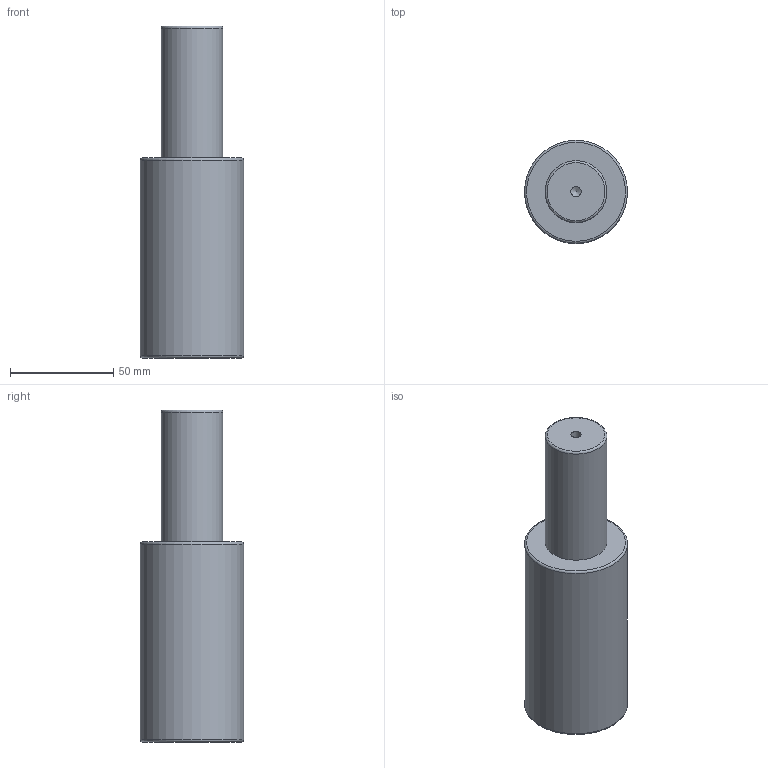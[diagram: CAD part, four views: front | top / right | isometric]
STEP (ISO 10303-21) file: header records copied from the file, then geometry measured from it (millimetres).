
FILE_DESCRIPTION(/* description */ (''),/* implementation_level */ '2;1');
FILE_NAME(/* name */ 'NV5-SMLX.50x63.stp',/* time_stamp */ '2018-08-31T16:08:32+02:00',/* author */ (''),/* organization */ (''),/* preprocessor_version */ 'ST-DEVELOPER v16',/* originating_system */ 'SIEMENS PLM Software NX 10.0',/* authorisation */ '');
FILE_SCHEMA (('AUTOMOTIVE_DESIGN { 1 0 10303 214 3 1 1 1 }'));
Length unit declared in the file: millimetre
Products named in the file (1): NV5-SMLX.50x63
Bounding box: 50 x 50 x 161 mm (x, y, z)
Volume: 234372.5 mm3; surface area: 25658.4 mm2
Topology: 1 solids, 1 shells, 12 faces, 24 edges, 15 vertices
Faces by surface type: cylinder 4, torus 3, plane 3, cone 2
Full cylindrical faces by diameter (mm): 5 x1, 8.5 x1, 30 x1, 50 x1
Entity records: 266 total; most frequent: DIRECTION 48, CARTESIAN_POINT 37, FACE_BOUND 24, AXIS2_PLACEMENT_3D 24, EDGE_LOOP 22, ORIENTED_EDGE 22, VERTEX_POINT 13, ADVANCED_FACE 12
